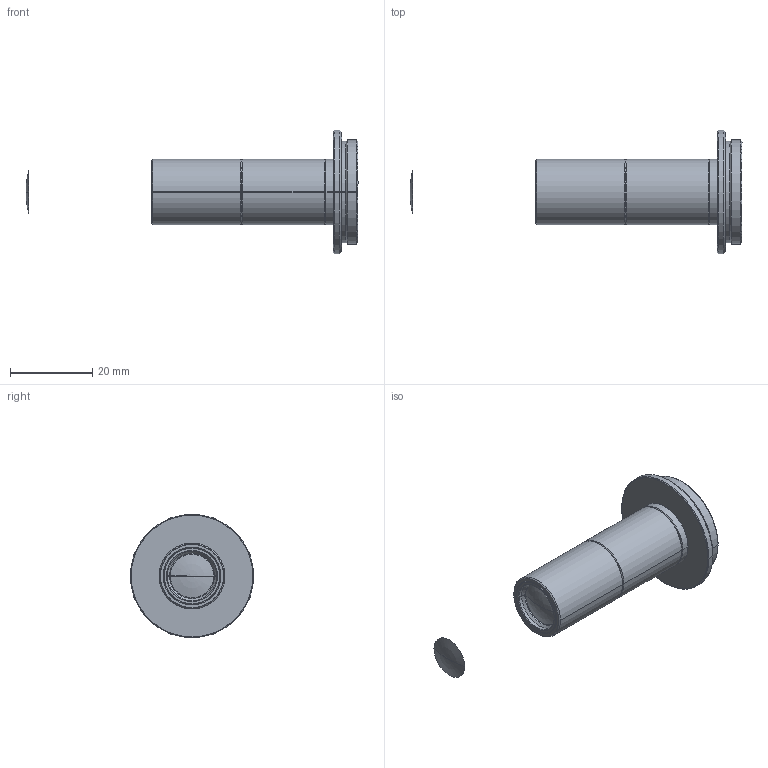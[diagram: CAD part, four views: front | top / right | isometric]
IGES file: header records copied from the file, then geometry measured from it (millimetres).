
Start section: SolidWorks IGES file using analytic representation for surfaces
Global section: file name: \\192.168.1.203\Development\01 マクロレンズ\02 VS-MC series\03 ノンテレマクロ\030 VS-MC03-180\3D\VS-MC03-180.IGS; native system: SolidWorks 2012; preprocessor: SolidWorks 2012; author: a-3DCAD2; date: 120601.170723; units: millimetre
Bounding box: 80.66 x 30 x 30 mm (x, y, z)
Surface area: 5758.2 mm2 (no closed solid volume)
Topology: 0 solids, 0 shells, 90 faces, 1024 edges, 1022 vertices
Faces by surface type: revolution 80, bspline 10
